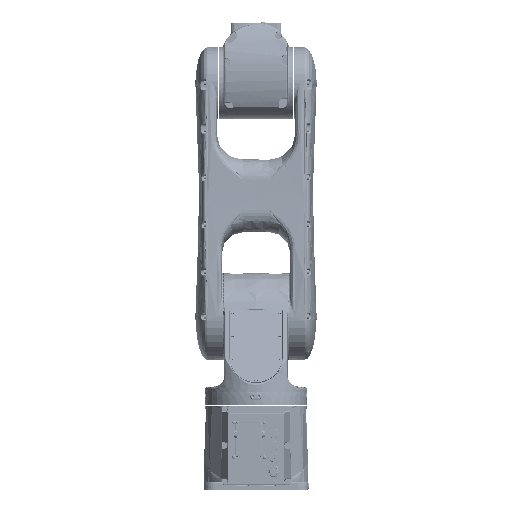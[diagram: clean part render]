
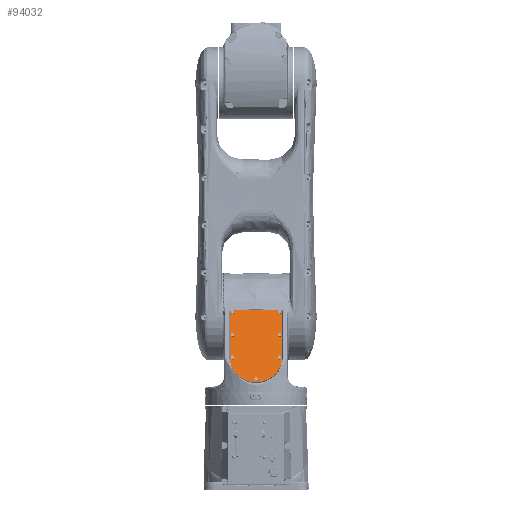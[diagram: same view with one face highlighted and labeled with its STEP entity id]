
A CAD part, left-side view. The second image highlights one B-rep face of the part: STEP entity #94032.
In plain terms, the highlighted planar face has unit normal (-0.934, 0, 0.358).
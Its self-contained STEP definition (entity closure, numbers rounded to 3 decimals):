
#78512=DIRECTION('',(-0.358,0.,
-0.934));
#78513=VECTOR('',#78512,94.5);
#78514=CARTESIAN_POINT('',(-45.192,49.5,339.673));
#78515=LINE('',#78514,#78513);
#78524=DIRECTION('',(0.,1.,0.));
#78525=VECTOR('',#78524,93.);
#78526=CARTESIAN_POINT('',(-44.117,-46.5,
342.473));
#78527=LINE('',#78526,#78525);
#78536=DIRECTION('',(0.358,0.,0.934));
#78537=VECTOR('',#78536,94.5);
#78538=CARTESIAN_POINT('',(-79.058,-49.5,251.449));
#78539=LINE('',#78538,#78537);
#78548=CARTESIAN_POINT('',(-45.192,-46.5,339.673));
#78549=DIRECTION('',(0.934,0.,-0.358));
#78550=DIRECTION('',(0.358,0.,0.934));
#78551=AXIS2_PLACEMENT_3D('',#78548,#78549,#78550);
#78553=CARTESIAN_POINT('',(-79.058,0.,
251.449));
#78554=DIRECTION('',(0.934,0.,-0.358));
#78555=DIRECTION('',(0.,-1.,0.));
#78556=AXIS2_PLACEMENT_3D('',#78553,#78554,#78555);
#78558=CARTESIAN_POINT('',(-45.192,46.5,339.673));
#78559=DIRECTION('',(0.934,0.,-0.358));
#78560=DIRECTION('',(0.,1.,0.));
#78561=AXIS2_PLACEMENT_3D('',#78558,#78559,#78560);
#78563=CARTESIAN_POINT('',(-45.909,44.5,337.805));
#78564=DIRECTION('',(-0.934,0.,0.358));
#78565=DIRECTION('',(0.,-1.,0.));
#78566=AXIS2_PLACEMENT_3D('',#78563,#78564,#78565);
#78568=CARTESIAN_POINT('',(-45.909,44.5,337.805));
#78569=DIRECTION('',(-0.934,0.,0.358));
#78570=DIRECTION('',(0.,1.,0.));
#78571=AXIS2_PLACEMENT_3D('',#78568,#78569,#78570);
#78573=CARTESIAN_POINT('',(-45.909,-44.5,337.805));
#78574=DIRECTION('',(-0.934,0.,0.358));
#78575=DIRECTION('',(0.,-1.,0.));
#78576=AXIS2_PLACEMENT_3D('',#78573,#78574,#78575);
#78578=CARTESIAN_POINT('',(-45.909,-44.5,337.805));
#78579=DIRECTION('',(-0.934,0.,0.358));
#78580=DIRECTION('',(0.,1.,0.));
#78581=AXIS2_PLACEMENT_3D('',#78578,#78579,#78580);
#78583=CARTESIAN_POINT('',(-79.058,-44.5,
251.449));
#78584=DIRECTION('',(-0.934,0.,0.358));
#78585=DIRECTION('',(0.,-1.,0.));
#78586=AXIS2_PLACEMENT_3D('',#78583,#78584,#78585);
#78588=CARTESIAN_POINT('',(-79.058,-44.5,
251.449));
#78589=DIRECTION('',(-0.934,0.,0.358));
#78590=DIRECTION('',(0.,1.,0.));
#78591=AXIS2_PLACEMENT_3D('',#78588,#78589,#78590);
#78593=CARTESIAN_POINT('',(-79.058,44.5,
251.449));
#78594=DIRECTION('',(-0.934,0.,0.358));
#78595=DIRECTION('',(0.,-1.,0.));
#78596=AXIS2_PLACEMENT_3D('',#78593,#78594,#78595);
#78598=CARTESIAN_POINT('',(-79.058,44.5,
251.449));
#78599=DIRECTION('',(-0.934,0.,0.358));
#78600=DIRECTION('',(0.,1.,0.));
#78601=AXIS2_PLACEMENT_3D('',#78598,#78599,#78600);
#78603=CARTESIAN_POINT('',(-95.005,0.,
209.905));
#78604=DIRECTION('',(-0.934,0.,0.358));
#78605=DIRECTION('',(0.,-1.,0.));
#78606=AXIS2_PLACEMENT_3D('',#78603,#78604,#78605);
#78608=CARTESIAN_POINT('',(-95.005,0.,
209.905));
#78609=DIRECTION('',(-0.934,0.,0.358));
#78610=DIRECTION('',(0.,1.,0.));
#78611=AXIS2_PLACEMENT_3D('',#78608,#78609,#78610);
#78613=CARTESIAN_POINT('',(-62.573,44.5,
294.394));
#78614=DIRECTION('',(-0.934,0.,0.358));
#78615=DIRECTION('',(0.,-1.,0.));
#78616=AXIS2_PLACEMENT_3D('',#78613,#78614,#78615);
#78618=CARTESIAN_POINT('',(-62.573,44.5,
294.394));
#78619=DIRECTION('',(-0.934,0.,0.358));
#78620=DIRECTION('',(0.,1.,0.));
#78621=AXIS2_PLACEMENT_3D('',#78618,#78619,#78620);
#78623=CARTESIAN_POINT('',(-62.573,-44.5,
294.394));
#78624=DIRECTION('',(-0.934,0.,0.358));
#78625=DIRECTION('',(0.,-1.,0.));
#78626=AXIS2_PLACEMENT_3D('',#78623,#78624,#78625);
#78628=CARTESIAN_POINT('',(-62.573,-44.5,
294.394));
#78629=DIRECTION('',(-0.934,0.,0.358));
#78630=DIRECTION('',(0.,1.,0.));
#78631=AXIS2_PLACEMENT_3D('',#78628,#78629,#78630);
#81090=CARTESIAN_POINT('',(-45.192,49.5,339.673));
#81091=VERTEX_POINT('',#81090);
#81092=CARTESIAN_POINT('',(-79.058,49.5,
251.449));
#81093=VERTEX_POINT('',#81092);
#81094=CARTESIAN_POINT('',(-44.117,46.5,
342.473));
#81095=VERTEX_POINT('',#81094);
#81096=CARTESIAN_POINT('',(-44.117,-46.5,
342.473));
#81097=VERTEX_POINT('',#81096);
#81098=CARTESIAN_POINT('',(-45.192,-49.5,339.673));
#81099=VERTEX_POINT('',#81098);
#81100=CARTESIAN_POINT('',(-79.058,-49.5,251.449));
#81101=VERTEX_POINT('',#81100);
#81102=CARTESIAN_POINT('',(-45.909,41.,337.805));
#81103=CARTESIAN_POINT('',(-45.909,48.,337.805));
#81104=VERTEX_POINT('',#81102);
#81105=VERTEX_POINT('',#81103);
#81106=CARTESIAN_POINT('',(-45.909,-48.,337.805));
#81107=CARTESIAN_POINT('',(-45.909,-41.,337.805));
#81108=VERTEX_POINT('',#81106);
#81109=VERTEX_POINT('',#81107);
#81110=CARTESIAN_POINT('',(-79.058,-48.,
251.449));
#81111=CARTESIAN_POINT('',(-79.058,-41.,
251.449));
#81112=VERTEX_POINT('',#81110);
#81113=VERTEX_POINT('',#81111);
#81114=CARTESIAN_POINT('',(-79.058,41.,
251.449));
#81115=CARTESIAN_POINT('',(-79.058,48.,
251.449));
#81116=VERTEX_POINT('',#81114);
#81117=VERTEX_POINT('',#81115);
#81118=CARTESIAN_POINT('',(-95.005,-3.5,
209.905));
#81119=CARTESIAN_POINT('',(-95.005,3.5,
209.905));
#81120=VERTEX_POINT('',#81118);
#81121=VERTEX_POINT('',#81119);
#81122=CARTESIAN_POINT('',(-62.573,41.,
294.394));
#81123=CARTESIAN_POINT('',(-62.573,48.,
294.394));
#81124=VERTEX_POINT('',#81122);
#81125=VERTEX_POINT('',#81123);
#81126=CARTESIAN_POINT('',(-62.573,-48.,
294.394));
#81127=CARTESIAN_POINT('',(-62.573,-41.,
294.394));
#81128=VERTEX_POINT('',#81126);
#81129=VERTEX_POINT('',#81127);
#93977=CARTESIAN_POINT('',(-79.058,0.,
251.449));
#93978=DIRECTION('',(0.934,0.,-0.358));
#93979=DIRECTION('',(0.,1.,0.));
#93980=AXIS2_PLACEMENT_3D('',#93977,#93978,#93979);
#93981=PLANE('',#93980);
#93982=ORIENTED_EDGE('',*,*,#93923,.T.);
#93983=ORIENTED_EDGE('',*,*,#93944,.F.);
#93984=ORIENTED_EDGE('',*,*,#93964,.T.);
#93985=ORIENTED_EDGE('',*,*,#93859,.F.);
#93986=ORIENTED_EDGE('',*,*,#93881,.T.);
#93987=ORIENTED_EDGE('',*,*,#93902,.F.);
#93988=EDGE_LOOP('',(#93982,#93983,#93984,#93985,#93986,#93987));
#93989=FACE_OUTER_BOUND('',#93988,.F.);
#93991=ORIENTED_EDGE('',*,*,#93990,.T.);
#93993=ORIENTED_EDGE('',*,*,#93992,.T.);
#93994=EDGE_LOOP('',(#93991,#93993));
#93995=FACE_BOUND('',#93994,.F.);
#93997=ORIENTED_EDGE('',*,*,#93996,.T.);
#93999=ORIENTED_EDGE('',*,*,#93998,.T.);
#94000=EDGE_LOOP('',(#93997,#93999));
#94001=FACE_BOUND('',#94000,.F.);
#94003=ORIENTED_EDGE('',*,*,#94002,.T.);
#94005=ORIENTED_EDGE('',*,*,#94004,.T.);
#94006=EDGE_LOOP('',(#94003,#94005));
#94007=FACE_BOUND('',#94006,.F.);
#94009=ORIENTED_EDGE('',*,*,#94008,.T.);
#94011=ORIENTED_EDGE('',*,*,#94010,.T.);
#94012=EDGE_LOOP('',(#94009,#94011));
#94013=FACE_BOUND('',#94012,.F.);
#94015=ORIENTED_EDGE('',*,*,#94014,.T.);
#94017=ORIENTED_EDGE('',*,*,#94016,.T.);
#94018=EDGE_LOOP('',(#94015,#94017));
#94019=FACE_BOUND('',#94018,.F.);
#94021=ORIENTED_EDGE('',*,*,#94020,.T.);
#94023=ORIENTED_EDGE('',*,*,#94022,.T.);
#94024=EDGE_LOOP('',(#94021,#94023));
#94025=FACE_BOUND('',#94024,.F.);
#94027=ORIENTED_EDGE('',*,*,#94026,.T.);
#94029=ORIENTED_EDGE('',*,*,#94028,.T.);
#94030=EDGE_LOOP('',(#94027,#94029));
#94031=FACE_BOUND('',#94030,.F.);
#94032=ADVANCED_FACE('',(#93989,#93995,#94001,#94007,#94013,#94019,#94025,
#94031),#93981,.F.);
#78552=CIRCLE('',#78551,3.);
#78557=CIRCLE('',#78556,49.5);
#78562=CIRCLE('',#78561,3.);
#78567=CIRCLE('',#78566,3.5);
#78572=CIRCLE('',#78571,3.5);
#78577=CIRCLE('',#78576,3.5);
#78582=CIRCLE('',#78581,3.5);
#78587=CIRCLE('',#78586,3.5);
#78592=CIRCLE('',#78591,3.5);
#78597=CIRCLE('',#78596,3.5);
#78602=CIRCLE('',#78601,3.5);
#78607=CIRCLE('',#78606,3.5);
#78612=CIRCLE('',#78611,3.5);
#78617=CIRCLE('',#78616,3.5);
#78622=CIRCLE('',#78621,3.5);
#78627=CIRCLE('',#78626,3.5);
#78632=CIRCLE('',#78631,3.5);
#93859=EDGE_CURVE('',#81091,#81093,#78515,.T.);
#93881=EDGE_CURVE('',#81091,#81095,#78562,.T.);
#93902=EDGE_CURVE('',#81097,#81095,#78527,.T.);
#93923=EDGE_CURVE('',#81097,#81099,#78552,.T.);
#93944=EDGE_CURVE('',#81101,#81099,#78539,.T.);
#93964=EDGE_CURVE('',#81101,#81093,#78557,.T.);
#93990=EDGE_CURVE('',#81104,#81105,#78567,.T.);
#93992=EDGE_CURVE('',#81105,#81104,#78572,.T.);
#93996=EDGE_CURVE('',#81108,#81109,#78577,.T.);
#93998=EDGE_CURVE('',#81109,#81108,#78582,.T.);
#94002=EDGE_CURVE('',#81112,#81113,#78587,.T.);
#94004=EDGE_CURVE('',#81113,#81112,#78592,.T.);
#94008=EDGE_CURVE('',#81116,#81117,#78597,.T.);
#94010=EDGE_CURVE('',#81117,#81116,#78602,.T.);
#94014=EDGE_CURVE('',#81120,#81121,#78607,.T.);
#94016=EDGE_CURVE('',#81121,#81120,#78612,.T.);
#94020=EDGE_CURVE('',#81124,#81125,#78617,.T.);
#94022=EDGE_CURVE('',#81125,#81124,#78622,.T.);
#94026=EDGE_CURVE('',#81128,#81129,#78627,.T.);
#94028=EDGE_CURVE('',#81129,#81128,#78632,.T.);
